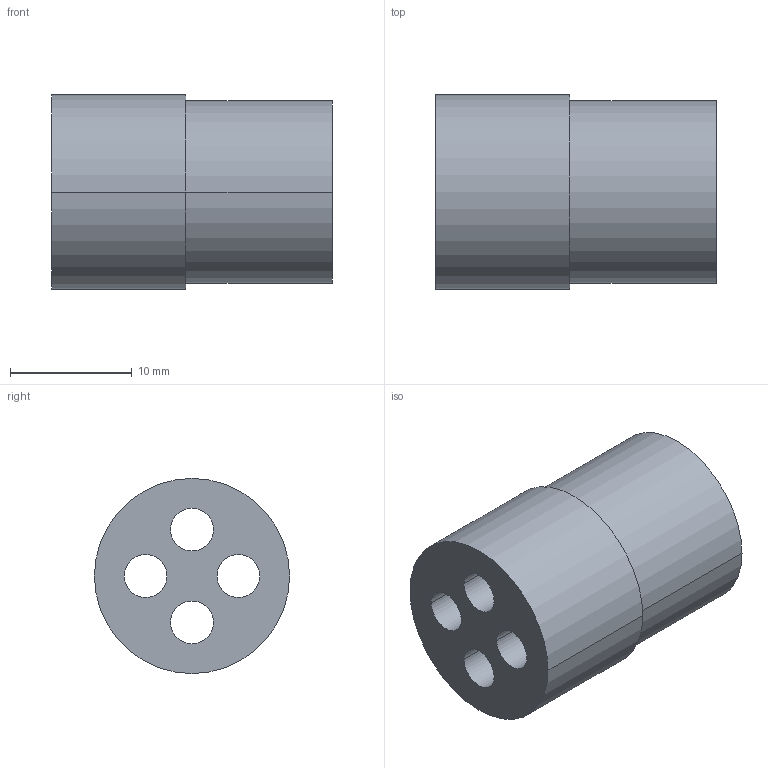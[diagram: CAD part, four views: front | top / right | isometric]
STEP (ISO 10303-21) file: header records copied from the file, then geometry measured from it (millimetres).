
FILE_DESCRIPTION(('Creo Elements/Direct Modeling STEP Export'),'2;1');
FILE_NAME('H08-0036-CL901_G13-334.stp','2012-02-15T14:37:20',(''),(''),'Creo Elements/Direct Modeling STEP processor for AP214 (Solid Model)','Creo Elements/Direct Modeling 18.0B 02-Dec-2011 (C) Parametric Technology GmbH','');
FILE_SCHEMA(('AUTOMOTIVE_DESIGN { 1 0 10303 214 1 1 1 1 }'));
Length unit declared in the file: millimetre
Products named in the file (1): G13-334
Bounding box: 23 x 16 x 16 mm (x, y, z)
Volume: 3447.1 mm3; surface area: 2455.2 mm2
Topology: 1 solids, 1 shells, 15 faces, 36 edges, 24 vertices
Faces by surface type: cylinder 12, plane 3
Entity records: 432 total; most frequent: ORIENTED_EDGE 72, DIRECTION 68, CARTESIAN_POINT 64, EDGE_CURVE 36, AXIS2_PLACEMENT_3D 28, VERTEX_POINT 24, EDGE_LOOP 24, FACE_OUTER_BOUND 15
